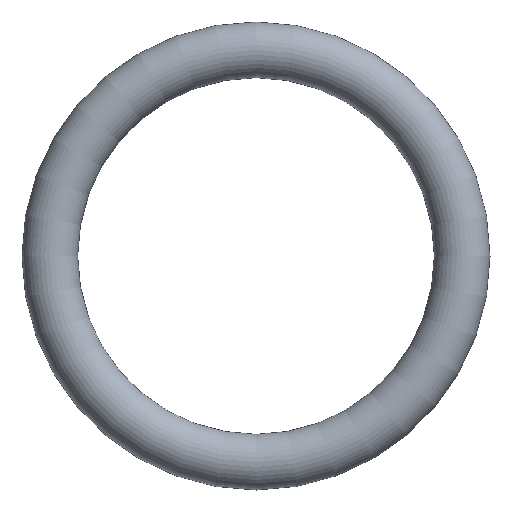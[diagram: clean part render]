
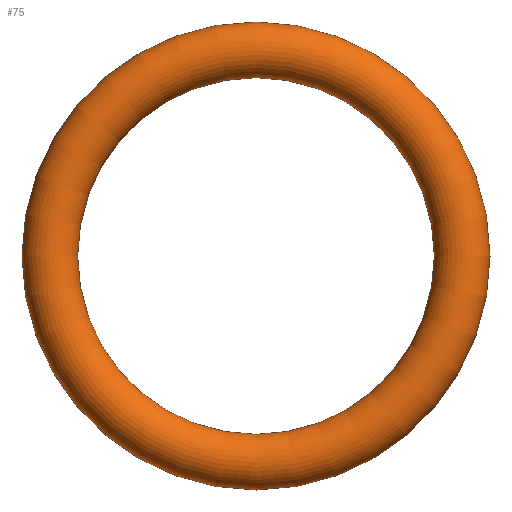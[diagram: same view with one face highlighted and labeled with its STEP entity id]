
A CAD part, front view. The second image highlights one B-rep face of the part: STEP entity #75.
In plain terms, the highlighted toroidal (fillet/blend) face has major radius 9.25 mm and minor radius 1.25 mm.
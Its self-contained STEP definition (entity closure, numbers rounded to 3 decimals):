
#75 = ADVANCED_FACE( '', ( #77 ), #78, .T. );
#77 = FACE_BOUND( '', #79, .T. );
#78 = TOROIDAL_SURFACE( '', #80, 9.25, 1.25 );
#79 = VERTEX_LOOP( '', #81 );
#80 = AXIS2_PLACEMENT_3D( '', #82, #83, #84 );
#81 = VERTEX_POINT( '', #85 );
#82 = CARTESIAN_POINT( '', ( 0., 0., 0. ) );
#83 = DIRECTION( '', ( 0., -1., 0. ) );
#84 = DIRECTION( '', ( 0., 0., -1. ) );
#85 = CARTESIAN_POINT( '', ( 0., 0., -10.5 ) );
